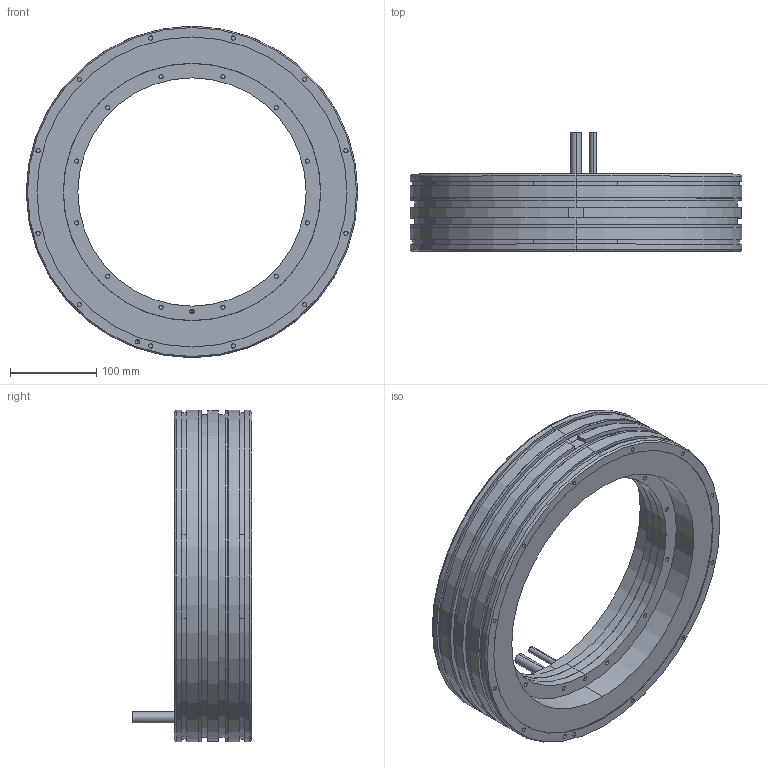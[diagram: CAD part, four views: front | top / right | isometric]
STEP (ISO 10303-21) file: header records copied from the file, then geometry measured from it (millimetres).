
FILE_DESCRIPTION (( 'STEP AP203' ), '1' );
FILE_NAME ('TM-2-A3.STEP', '2020-10-20T05:52:51', ( '' ), ( '' ), 'SwSTEP 2.0', 'SolidWorks 2015', '' );
FILE_SCHEMA (( 'CONFIG_CONTROL_DESIGN' ));
Length unit declared in the file: millimetre
Products named in the file (3): TM-2-AX_stator_TM-2-A3_stator; TM-2-A3; TM-2-AX_rotor_TM-2-A3_rotor
Assembly tree (2 placements, depth 2):
  TM-2-A3
    TM-2-AX_stator_TM-2-A3_stator
    TM-2-AX_rotor_TM-2-A3_rotor
Bounding box: 385 x 139 x 385 mm (x, y, z)
Volume: 4401730.2 mm3; surface area: 420941.1 mm2
Topology: 2 solids, 2 shells, 229 faces, 471 edges, 302 vertices
Faces by surface type: cylinder 144, plane 69, cone 16
Entity records: 6422 total; most frequent: DIRECTION 1223, CARTESIAN_POINT 999, ORIENTED_EDGE 926, AXIS2_PLACEMENT_3D 526, EDGE_CURVE 463, VERTEX_POINT 302, EDGE_LOOP 297, CIRCLE 292
